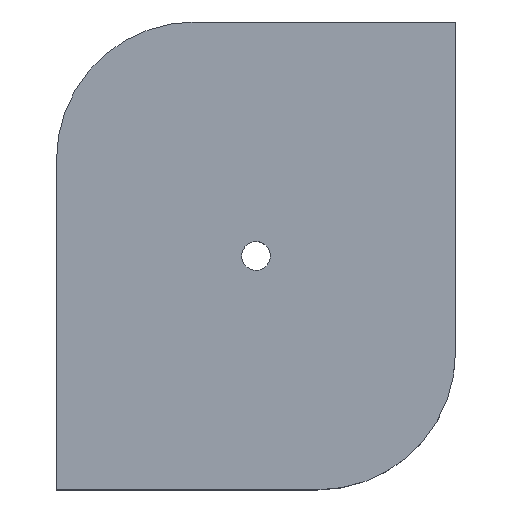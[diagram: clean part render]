
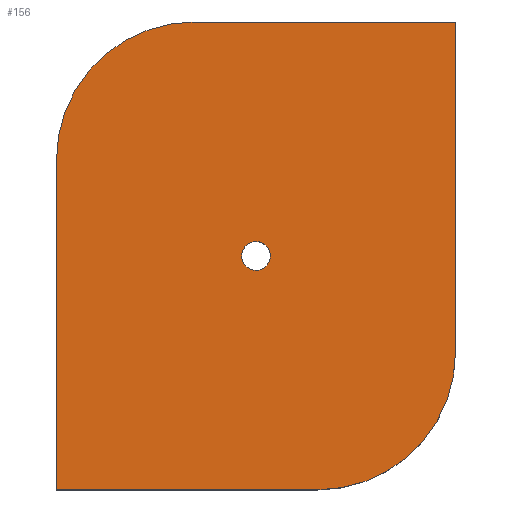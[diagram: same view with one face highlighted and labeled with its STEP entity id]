
A CAD part, top view. The second image highlights one B-rep face of the part: STEP entity #156.
In plain terms, the highlighted planar face has unit normal (0, 0, 1).
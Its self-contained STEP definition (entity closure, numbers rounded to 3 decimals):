
#63=CARTESIAN_POINT('Vertex',(54.325,70.008,31.)) ;
#77=CARTESIAN_POINT('Vertex',(61.675,65.992,31.)) ;
#80=CARTESIAN_POINT('Axis2P3D Location',(58.,68.,31.)) ;
#92=CARTESIAN_POINT('Axis2P3D Location',(0.,0.,31.)) ;
#97=CARTESIAN_POINT('Line Origine',(0.,48.,31.)) ;
#101=CARTESIAN_POINT('Vertex',(0.,96.,31.)) ;
#103=CARTESIAN_POINT('Vertex',(0.,0.,31.)) ;
#106=CARTESIAN_POINT('Line Origine',(38.,0.,31.)) ;
#110=CARTESIAN_POINT('Vertex',(76.,0.,31.)) ;
#113=CARTESIAN_POINT('Axis2P3D Location',(76.,40.,31.)) ;
#117=CARTESIAN_POINT('Vertex',(116.,40.,31.)) ;
#120=CARTESIAN_POINT('Line Origine',(116.,88.,31.)) ;
#124=CARTESIAN_POINT('Vertex',(116.,136.,31.)) ;
#127=CARTESIAN_POINT('Line Origine',(78.,136.,31.)) ;
#131=CARTESIAN_POINT('Vertex',(40.,136.,31.)) ;
#134=CARTESIAN_POINT('Axis2P3D Location',(40.,96.,31.)) ;
#147=CARTESIAN_POINT('Axis2P3D Location',(58.,68.,31.)) ;
#81=DIRECTION('Axis2P3D Direction',(0.,-0.,-1.)) ;
#93=DIRECTION('Axis2P3D Direction',(0.,0.,1.)) ;
#94=DIRECTION('Axis2P3D XDirection',(1.,0.,0.)) ;
#98=DIRECTION('Vector Direction',(0.,-1.,0.)) ;
#107=DIRECTION('Vector Direction',(1.,0.,0.)) ;
#114=DIRECTION('Axis2P3D Direction',(0.,0.,1.)) ;
#121=DIRECTION('Vector Direction',(0.,1.,0.)) ;
#128=DIRECTION('Vector Direction',(-1.,0.,0.)) ;
#135=DIRECTION('Axis2P3D Direction',(0.,0.,1.)) ;
#148=DIRECTION('Axis2P3D Direction',(0.,0.,1.)) ;
#82=AXIS2_PLACEMENT_3D('Circle Axis2P3D',#80,#81,$) ;
#95=AXIS2_PLACEMENT_3D('Plane Axis2P3D',#92,#93,#94) ;
#115=AXIS2_PLACEMENT_3D('Circle Axis2P3D',#113,#114,$) ;
#136=AXIS2_PLACEMENT_3D('Circle Axis2P3D',#134,#135,$) ;
#149=AXIS2_PLACEMENT_3D('Circle Axis2P3D',#147,#148,$) ;
#140=ORIENTED_EDGE('',*,*,#105,.T.) ;
#141=ORIENTED_EDGE('',*,*,#112,.T.) ;
#142=ORIENTED_EDGE('',*,*,#119,.F.) ;
#143=ORIENTED_EDGE('',*,*,#126,.T.) ;
#144=ORIENTED_EDGE('',*,*,#133,.T.) ;
#145=ORIENTED_EDGE('',*,*,#138,.F.) ;
#153=ORIENTED_EDGE('',*,*,#151,.F.) ;
#154=ORIENTED_EDGE('',*,*,#84,.F.) ;
#155=FACE_BOUND('',#152,.T.) ;
#99=VECTOR('Line Direction',#98,1.) ;
#108=VECTOR('Line Direction',#107,1.) ;
#122=VECTOR('Line Direction',#121,1.) ;
#129=VECTOR('Line Direction',#128,1.) ;
#156=ADVANCED_FACE('PartBody',(#146,#155),#96,.T.) ;
#83=CIRCLE('generated circle',#82,4.188) ;
#116=CIRCLE('generated circle',#115,40.) ;
#137=CIRCLE('generated circle',#136,40.) ;
#150=CIRCLE('generated circle',#149,4.188) ;
#84=EDGE_CURVE('',#78,#64,#83,.F.) ;
#105=EDGE_CURVE('',#102,#104,#100,.T.) ;
#112=EDGE_CURVE('',#104,#111,#109,.T.) ;
#119=EDGE_CURVE('',#118,#111,#116,.F.) ;
#126=EDGE_CURVE('',#118,#125,#123,.T.) ;
#133=EDGE_CURVE('',#125,#132,#130,.T.) ;
#138=EDGE_CURVE('',#102,#132,#137,.F.) ;
#151=EDGE_CURVE('',#64,#78,#150,.T.) ;
#139=EDGE_LOOP('',(#140,#141,#142,#143,#144,#145)) ;
#152=EDGE_LOOP('',(#153,#154)) ;
#146=FACE_OUTER_BOUND('',#139,.T.) ;
#100=LINE('Line',#97,#99) ;
#109=LINE('Line',#106,#108) ;
#123=LINE('Line',#120,#122) ;
#130=LINE('Line',#127,#129) ;
#96=PLANE('',#95) ;
#64=VERTEX_POINT('',#63) ;
#78=VERTEX_POINT('',#77) ;
#102=VERTEX_POINT('',#101) ;
#104=VERTEX_POINT('',#103) ;
#111=VERTEX_POINT('',#110) ;
#118=VERTEX_POINT('',#117) ;
#125=VERTEX_POINT('',#124) ;
#132=VERTEX_POINT('',#131) ;
